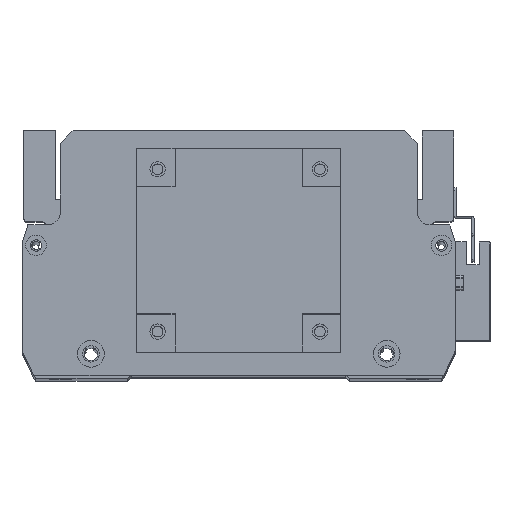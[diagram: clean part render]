
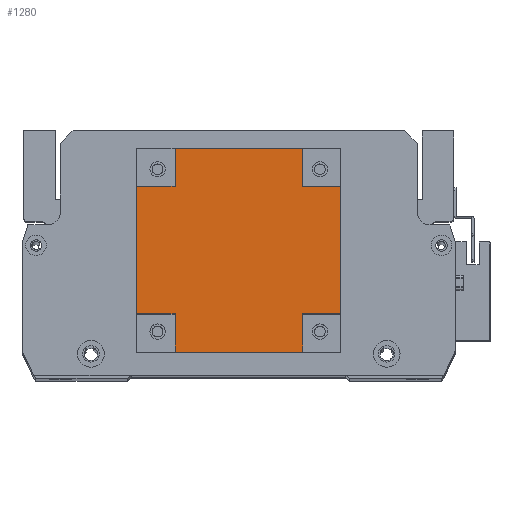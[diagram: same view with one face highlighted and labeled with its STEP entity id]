
A CAD part, top view. The second image highlights one B-rep face of the part: STEP entity #1280.
In plain terms, the highlighted planar face has unit normal (0, 0, 1).
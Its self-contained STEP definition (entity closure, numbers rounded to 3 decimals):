
#97 = DIRECTION ( 'NONE',  ( -1., 0., 0. ) ) ;
#149 = ORIENTED_EDGE ( 'NONE', *, *, #13195, .F. ) ;
#310 = VERTEX_POINT ( 'NONE', #8009 ) ;
#441 = ORIENTED_EDGE ( 'NONE', *, *, #13276, .F. ) ;
#614 = VERTEX_POINT ( 'NONE', #25155 ) ;
#617 = LINE ( 'NONE', #7241, #20061 ) ;
#769 = VERTEX_POINT ( 'NONE', #10529 ) ;
#1280 = ADVANCED_FACE ( 'NONE', ( #16390 ), #13457, .F. ) ;
#1325 = EDGE_LOOP ( 'NONE', ( #17786, #2844, #20717, #20726, #13222, #3107, #12502, #149, #3003, #12647, #14097, #441 ) ) ;
#1451 = DIRECTION ( 'NONE',  ( 0., 0., -1. ) ) ;
#1980 = AXIS2_PLACEMENT_3D ( 'NONE', #19397, #1451, #15477 ) ;
#2060 = DIRECTION ( 'NONE',  ( 0., 1., 0. ) ) ;
#2077 = LINE ( 'NONE', #20346, #16183 ) ;
#2455 = LINE ( 'NONE', #12527, #23082 ) ;
#2744 = LINE ( 'NONE', #20258, #8115 ) ;
#2844 = ORIENTED_EDGE ( 'NONE', *, *, #10415, .F. ) ;
#2853 = CARTESIAN_POINT ( 'NONE',  ( 65., 15., 101.5 ) ) ;
#3003 = ORIENTED_EDGE ( 'NONE', *, *, #13200, .F. ) ;
#3107 = ORIENTED_EDGE ( 'NONE', *, *, #13165, .F. ) ;
#3365 = LINE ( 'NONE', #18090, #23948 ) ;
#4962 = VECTOR ( 'NONE', #13863, 1000. ) ;
#5025 = LINE ( 'NONE', #9274, #24976 ) ;
#5148 = CARTESIAN_POINT ( 'NONE',  ( 80., 65., 101.5 ) ) ;
#5439 = DIRECTION ( 'NONE',  ( 0., 1., 0. ) ) ;
#5848 = VECTOR ( 'NONE', #97, 1000. ) ;
#6002 = CARTESIAN_POINT ( 'NONE',  ( 15., 0., 101.5 ) ) ;
#6011 = CARTESIAN_POINT ( 'NONE',  ( 80., 15., 101.5 ) ) ;
#6096 = CARTESIAN_POINT ( 'NONE',  ( 80., 15., 101.5 ) ) ;
#6545 = DIRECTION ( 'NONE',  ( 0., -1., 0. ) ) ;
#7241 = CARTESIAN_POINT ( 'NONE',  ( 0., 80., 101.5 ) ) ;
#8009 = CARTESIAN_POINT ( 'NONE',  ( 0., 15., 101.5 ) ) ;
#8115 = VECTOR ( 'NONE', #8376, 1000. ) ;
#8376 = DIRECTION ( 'NONE',  ( 1., 0., 0. ) ) ;
#8493 = EDGE_CURVE ( 'NONE', #614, #310, #2455, .T. ) ;
#8653 = CARTESIAN_POINT ( 'NONE',  ( 15., 80., 101.5 ) ) ;
#8664 = EDGE_CURVE ( 'NONE', #24577, #25548, #18721, .T. ) ;
#8775 = EDGE_CURVE ( 'NONE', #14740, #25022, #20888, .T. ) ;
#9274 = CARTESIAN_POINT ( 'NONE',  ( 0., 65., 101.5 ) ) ;
#9374 = CARTESIAN_POINT ( 'NONE',  ( 15., 65., 101.5 ) ) ;
#9386 = LINE ( 'NONE', #6002, #19937 ) ;
#9415 = VERTEX_POINT ( 'NONE', #8653 ) ;
#10343 = EDGE_CURVE ( 'NONE', #21854, #9415, #617, .T. ) ;
#10415 = EDGE_CURVE ( 'NONE', #20947, #9415, #13483, .T. ) ;
#10529 = CARTESIAN_POINT ( 'NONE',  ( 15., 15., 101.5 ) ) ;
#11067 = EDGE_CURVE ( 'NONE', #614, #20947, #5025, .T. ) ;
#11271 = DIRECTION ( 'NONE',  ( -1., 0., 0. ) ) ;
#11917 = CARTESIAN_POINT ( 'NONE',  ( 80., 0., 101.5 ) ) ;
#12191 = DIRECTION ( 'NONE',  ( 0., -1., 0. ) ) ;
#12502 = ORIENTED_EDGE ( 'NONE', *, *, #8664, .T. ) ;
#12527 = CARTESIAN_POINT ( 'NONE',  ( 0., 0., 101.5 ) ) ;
#12647 = ORIENTED_EDGE ( 'NONE', *, *, #8775, .T. ) ;
#13131 = EDGE_CURVE ( 'NONE', #769, #310, #15248, .T. ) ;
#13165 = EDGE_CURVE ( 'NONE', #24577, #769, #9386, .T. ) ;
#13195 = EDGE_CURVE ( 'NONE', #25570, #25548, #3365, .T. ) ;
#13200 = EDGE_CURVE ( 'NONE', #14740, #25570, #13980, .T. ) ;
#13222 = ORIENTED_EDGE ( 'NONE', *, *, #13131, .F. ) ;
#13233 = EDGE_CURVE ( 'NONE', #20951, #25022, #2744, .T. ) ;
#13276 = EDGE_CURVE ( 'NONE', #21854, #20951, #2077, .T. ) ;
#13395 = VECTOR ( 'NONE', #17479, 1000. ) ;
#13457 = PLANE ( 'NONE',  #1980 ) ;
#13483 = LINE ( 'NONE', #15409, #18197 ) ;
#13675 = CARTESIAN_POINT ( 'NONE',  ( 65., 80., 101.5 ) ) ;
#13863 = DIRECTION ( 'NONE',  ( 0., 1., 0. ) ) ;
#13959 = CARTESIAN_POINT ( 'NONE',  ( 0., 15., 101.5 ) ) ;
#13980 = LINE ( 'NONE', #6096, #5848 ) ;
#14097 = ORIENTED_EDGE ( 'NONE', *, *, #13233, .F. ) ;
#14740 = VERTEX_POINT ( 'NONE', #6011 ) ;
#15208 = DIRECTION ( 'NONE',  ( 1., 0., 0. ) ) ;
#15248 = LINE ( 'NONE', #13959, #25183 ) ;
#15409 = CARTESIAN_POINT ( 'NONE',  ( 15., 80., 101.5 ) ) ;
#15477 = DIRECTION ( 'NONE',  ( -1., 0., 0. ) ) ;
#15982 = DIRECTION ( 'NONE',  ( -1., 0., 0. ) ) ;
#16183 = VECTOR ( 'NONE', #16419, 1000. ) ;
#16390 = FACE_OUTER_BOUND ( 'NONE', #1325, .T. ) ;
#16419 = DIRECTION ( 'NONE',  ( 0., -1., 0. ) ) ;
#17479 = DIRECTION ( 'NONE',  ( 1., 0., 0. ) ) ;
#17762 = CARTESIAN_POINT ( 'NONE',  ( 15., 0., 101.5 ) ) ;
#17786 = ORIENTED_EDGE ( 'NONE', *, *, #10343, .T. ) ;
#18090 = CARTESIAN_POINT ( 'NONE',  ( 65., 0., 101.5 ) ) ;
#18197 = VECTOR ( 'NONE', #5439, 1000. ) ;
#18721 = LINE ( 'NONE', #23378, #13395 ) ;
#18832 = CARTESIAN_POINT ( 'NONE',  ( 65., 0., 101.5 ) ) ;
#19397 = CARTESIAN_POINT ( 'NONE',  ( 0., 0., 101.5 ) ) ;
#19937 = VECTOR ( 'NONE', #2060, 1000. ) ;
#20061 = VECTOR ( 'NONE', #11271, 1000. ) ;
#20258 = CARTESIAN_POINT ( 'NONE',  ( 65., 65., 101.5 ) ) ;
#20346 = CARTESIAN_POINT ( 'NONE',  ( 65., 80., 101.5 ) ) ;
#20717 = ORIENTED_EDGE ( 'NONE', *, *, #11067, .F. ) ;
#20726 = ORIENTED_EDGE ( 'NONE', *, *, #8493, .T. ) ;
#20888 = LINE ( 'NONE', #11917, #4962 ) ;
#20947 = VERTEX_POINT ( 'NONE', #9374 ) ;
#20951 = VERTEX_POINT ( 'NONE', #25205 ) ;
#21854 = VERTEX_POINT ( 'NONE', #13675 ) ;
#23082 = VECTOR ( 'NONE', #6545, 1000. ) ;
#23378 = CARTESIAN_POINT ( 'NONE',  ( 0., 0., 101.5 ) ) ;
#23948 = VECTOR ( 'NONE', #12191, 1000. ) ;
#24577 = VERTEX_POINT ( 'NONE', #17762 ) ;
#24976 = VECTOR ( 'NONE', #15208, 1000. ) ;
#25022 = VERTEX_POINT ( 'NONE', #5148 ) ;
#25155 = CARTESIAN_POINT ( 'NONE',  ( 0., 65., 101.5 ) ) ;
#25183 = VECTOR ( 'NONE', #15982, 1000. ) ;
#25205 = CARTESIAN_POINT ( 'NONE',  ( 65., 65., 101.5 ) ) ;
#25548 = VERTEX_POINT ( 'NONE', #18832 ) ;
#25570 = VERTEX_POINT ( 'NONE', #2853 ) ;
